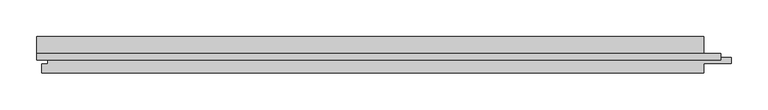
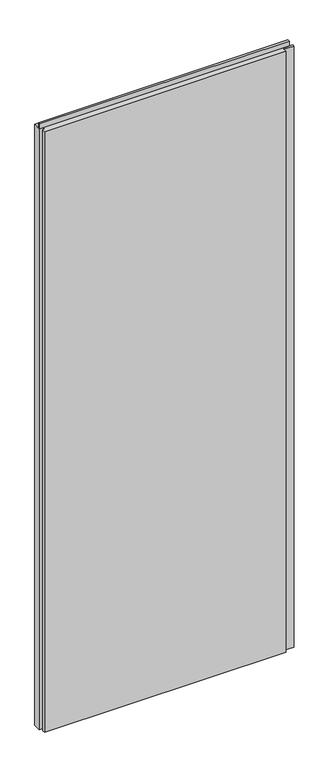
"""IFC4 building model written with IfcOpenShell, lengths in millimetres: plate geometry, Trimo_Qbiss Screen_Normal Panel-VERTICAL : HR - B."""

import ifcopenshell
import ifcopenshell.guid

model = None  # the IFC model being written
_history = None  # IfcOwnerHistory: only IFC2X3 demands one
_inside = {}  # id of a spatial element -> (the spatial element, [elements in it])
_under = {}  # id of a project, library or spatial element -> (it, [spatial elements below it])
_declared = {}  # id of a project -> (the project, [libraries it declares])
_typed = {}  # id of a type object -> (the type object, [elements of that type])
_made_of = {}  # id of a material, layer set ... -> (it, [elements and type objects made of it])


def new_model(schema):
    """Start an empty IFC model of exactly this schema.

    Asked for "IFC4X3", IfcOpenShell would pick the latest addendum, in which some entities
    have other attributes; the version numbers below select the first issue.
    IFC2X3 requires an IfcOwnerHistory on every rooted entity: one is made here for all.
    """
    global model, _history
    if schema == "IFC4X3":
        model = ifcopenshell.file(schema_version=(4, 3, 0, 0))
    else:
        model = ifcopenshell.file(schema=schema)
    _inside.clear()
    _under.clear()
    _declared.clear()
    _typed.clear()
    _made_of.clear()
    _history = None
    if model.schema == "IFC2X3":
        org = make("IfcOrganization", Name="unknown")
        user = make(
            "IfcPersonAndOrganization",
            ThePerson=make("IfcPerson", FamilyName="unknown"),
            TheOrganization=org,
        )
        app = make(
            "IfcApplication",
            ApplicationDeveloper=org,
            Version="unknown",
            ApplicationFullName="unknown",
            ApplicationIdentifier="unknown",
        )
        _history = make(
            "IfcOwnerHistory",
            OwningUser=user,
            OwningApplication=app,
            ChangeAction="ADDED",
            CreationDate=0,
        )
    return model


def make(cls, **values):
    """One entity of the class cls with the attributes given. An attribute that is None is left unset."""
    return model.create_entity(
        cls, **{name: value for name, value in values.items() if value is not None}
    )


def rooted(cls, **values):
    """An entity with a GlobalId (a new one), such as an element, a storey or a relation."""
    return make(cls, GlobalId=ifcopenshell.guid.new(), OwnerHistory=_history, **values)


def si_unit(unit_type, name, prefix=None):
    """IfcSIUnit, for example si_unit("LENGTHUNIT", "METRE", prefix="MILLI")."""
    return make("IfcSIUnit", UnitType=unit_type, Prefix=prefix, Name=name)


def assignment(units):
    """IfcUnitAssignment: the units of a project."""
    return None if units is None else make("IfcUnitAssignment", Units=units)


def point(xyz):
    """IfcCartesianPoint."""
    return None if xyz is None else make("IfcCartesianPoint", Coordinates=xyz)


def direction(xyz):
    """IfcDirection."""
    return None if xyz is None else make("IfcDirection", DirectionRatios=xyz)


def frame(location, z_axis=None, x_axis=None):
    """IfcAxis2Placement3D, a coordinate frame: its origin and axes. An axis left out is left unset."""
    return make(
        "IfcAxis2Placement3D",
        Location=point(location),
        Axis=direction(z_axis),
        RefDirection=direction(x_axis),
    )


def origin():
    """The frame at (0, 0, 0) with its axes left unset."""
    return frame((0.0, 0.0, 0.0))


def place(relative_to, where):
    """IfcLocalPlacement: puts the frame where relative to a parent placement (None: the world)."""
    return make(
        "IfcLocalPlacement", PlacementRelTo=relative_to, RelativePlacement=where
    )


def context(
    kind, dimensions, precision=None, world=None, true_north=None, identifier=None
):
    """IfcGeometricRepresentationContext, for example the 3D "Model" context."""
    return make(
        "IfcGeometricRepresentationContext",
        ContextIdentifier=identifier,
        ContextType=kind,
        CoordinateSpaceDimension=dimensions,
        Precision=precision,
        WorldCoordinateSystem=world,
        TrueNorth=true_north,
    )


def project(units=None, contexts=None):
    """IfcProject with its units and contexts."""
    return rooted(
        "IfcProject",
        Name="project",
        RepresentationContexts=contexts,
        UnitsInContext=assignment(units),
    )


def spatial(cls, under=None, at=None, **own):
    """A site, building, storey or space (cls), placed at a placement, below another one or the project."""
    s = rooted(cls, ObjectPlacement=at, **own)
    if under is not None:
        _under.setdefault(under.id(), (under, []))[1].append(s)
    return s


def polyline(points):
    """IfcPolyline through the points."""
    return make("IfcPolyline", Points=[point(p) for p in points])


def outline(outer, holes=None, kind="AREA"):
    """IfcArbitraryClosedProfileDef: a profile drawn as a closed curve; with holes, ...WithVoids."""
    if holes is None:
        return make("IfcArbitraryClosedProfileDef", ProfileType=kind, OuterCurve=outer)
    return make(
        "IfcArbitraryProfileDefWithVoids",
        ProfileType=kind,
        OuterCurve=outer,
        InnerCurves=holes,
    )


def extrude(swept, where, along, depth):
    """IfcExtrudedAreaSolid: the profile swept, set in the frame where, extruded along a direction by depth."""
    return make(
        "IfcExtrudedAreaSolid",
        SweptArea=swept,
        Position=where,
        ExtrudedDirection=direction(along),
        Depth=depth,
    )


def shape(context_of_items, identifier, shape_type, items):
    """IfcShapeRepresentation: the items that make up one representation, for example the "Body"."""
    return make(
        "IfcShapeRepresentation",
        ContextOfItems=context_of_items,
        RepresentationIdentifier=identifier,
        RepresentationType=shape_type,
        Items=items,
    )


def source(mapping_origin, context_of_items, identifier, shape_type, items):
    """IfcRepresentationMap: a shape defined once, which mapped items show again and again."""
    return make(
        "IfcRepresentationMap",
        MappingOrigin=mapping_origin,
        MappedRepresentation=shape(context_of_items, identifier, shape_type, items),
    )


def transform(
    local_origin,
    x_axis=None,
    y_axis=None,
    z_axis=None,
    scale=None,
    scale2=None,
    scale3=None,
    uniform=True,
):
    """IfcCartesianTransformationOperator3D, or its non-uniform kind. x_axis, y_axis, z_axis: its Axis1, 2, 3."""
    if uniform:
        return make(
            "IfcCartesianTransformationOperator3D",
            Axis1=direction(x_axis),
            Axis2=direction(y_axis),
            LocalOrigin=point(local_origin),
            Scale=scale,
            Axis3=direction(z_axis),
        )
    return make(
        "IfcCartesianTransformationOperator3DnonUniform",
        Axis1=direction(x_axis),
        Axis2=direction(y_axis),
        LocalOrigin=point(local_origin),
        Scale=scale,
        Axis3=direction(z_axis),
        Scale2=scale2,
        Scale3=scale3,
    )


def mapped(mapping_source, mapping_target):
    """IfcMappedItem: shows the shape of a source again, moved by a transform."""
    return make(
        "IfcMappedItem", MappingSource=mapping_source, MappingTarget=mapping_target
    )


def made_of(thing, what):
    """Note that an element or type object is made of a material, layer set ...; save() writes the relation."""
    if what is not None:
        _made_of.setdefault(what.id(), (what, []))[1].append(thing)
    return thing


def element(
    cls,
    number,
    at=None,
    inside=None,
    cuts=None,
    type_object=None,
    material=None,
    context=None,
    identifier="Body",
    shape_type=None,
    held_by="IfcProductDefinitionShape",
    body=None,
    shapes=None,
    **own,
):
    """One element of the class cls, such as IfcWall. Its Tag is "e" and its number.

    at: its placement. inside: the storey or other place that contains it. cuts: it is an
    opening in that element (IfcRelVoidsElement). A single representation is given by context,
    identifier, shape_type and body (its items); several are given by shapes. held_by: the class
    of the entity that holds the representations. save() writes the other relations.
    """
    e = rooted(cls, Tag="e%d" % number, ObjectPlacement=at, **own)
    if body is not None:
        shapes = [shape(context, identifier, shape_type, body)]
    if shapes is not None:
        e.Representation = make(held_by, Representations=shapes)
    if inside is not None:
        _inside.setdefault(inside.id(), (inside, []))[1].append(e)
    if cuts is not None:
        rooted(
            "IfcRelVoidsElement", RelatingBuildingElement=cuts, RelatedOpeningElement=e
        )
    if type_object is not None:
        _typed.setdefault(type_object.id(), (type_object, []))[1].append(e)
    return made_of(e, material)


def aggregate(whole, parts):
    """IfcRelAggregates: a whole, such as a stair, and the parts it consists of."""
    return rooted("IfcRelAggregates", RelatingObject=whole, RelatedObjects=parts)


def save(model, path):
    """Write the relations noted so far, then the file.

    IfcRelAggregates (storeys below a building ...), IfcRelContainedInSpatialStructure (elements
    in a storey), IfcRelDefinesByType, IfcRelAssociatesMaterial and IfcRelDeclares: one each for
    every whole, place, type object, material and project.
    """
    for whole, parts in _under.values():
        aggregate(whole, parts)
    for where, things in _inside.values():
        rooted(
            "IfcRelContainedInSpatialStructure",
            RelatedElements=things,
            RelatingStructure=where,
        )
    for kind, things in _typed.values():
        rooted("IfcRelDefinesByType", RelatedObjects=things, RelatingType=kind)
    for what, things in _made_of.values():
        rooted("IfcRelAssociatesMaterial", RelatedObjects=things, RelatingMaterial=what)
    for by, libraries in _declared.values():
        rooted("IfcRelDeclares", RelatingContext=by, RelatedDefinitions=libraries)
    model.write(path)


def plate_e52f3243(model_context):
    return source(origin(), model_context, "Body", "SweptSolid", [
        extrude(outline(polyline([(445.0, 97.0), (445.0, 102.6), (466.0, 102.6), (466.0, 97.0), (445.0, 97.0)])), frame((0.0, 0.0, 12.5), z_axis=(0.0, 0.0, 1.0), x_axis=(1.0, 0.0, 0.0)), (0.0, 0.0, 1.0), 2375.0),
        extrude(outline(polyline([(-467.0, 93.9), (-467.0, 102.6), (467.0, 102.6), (467.0, 93.9), (-467.0, 93.9)])), frame((0.0, 0.0, 2390.5), z_axis=(0.0, 0.0, 1.0), x_axis=(1.0, 0.0, 0.0)), (0.0, 0.0, 1.0), 19.0),
        extrude(outline(polyline([(444.0, 97.0), (481.5, 97.0), (481.5, 89.0), (444.0, 89.0), (444.0, 76.0), (-460.0, 76.0), (-460.0, 88.0), (-451.5, 88.0), (-451.5, 98.0), (-467.0, 98.0), (-467.0, 126.0), (444.0, 126.0), (444.0, 97.0)])), frame((0.0, 0.0, 12.5), z_axis=(0.0, 0.0, 1.0), x_axis=(1.0, 0.0, 0.0)), (0.0, 0.0, 1.0), 2375.0),
    ])


if __name__ == "__main__":
    model = new_model("IFC4")
    model_context = context("Model", 3, world=origin())
    ifc_project = project(units=[si_unit("LENGTHUNIT", "METRE", prefix="MILLI")], contexts=[model_context])
    site = spatial("IfcSite", under=ifc_project)
    building = spatial("IfcBuilding", under=site)
    placement = place(None, origin())
    plate_shape = plate_e52f3243(model_context)
    element("IfcPlate", 1, ObjectType="Trimo_Qbiss Screen_Normal Panel-VERTICAL : HR - B", at=placement, inside=building, context=model_context, shape_type="MappedRepresentation", body=[
        mapped(plate_shape, transform((0.0, 0.0, 0.0), x_axis=(1.0, 0.0, 0.0), y_axis=(0.0, 1.0, 0.0), z_axis=(0.0, 0.0, 1.0))),
    ])
    save(model, "model.ifc")
